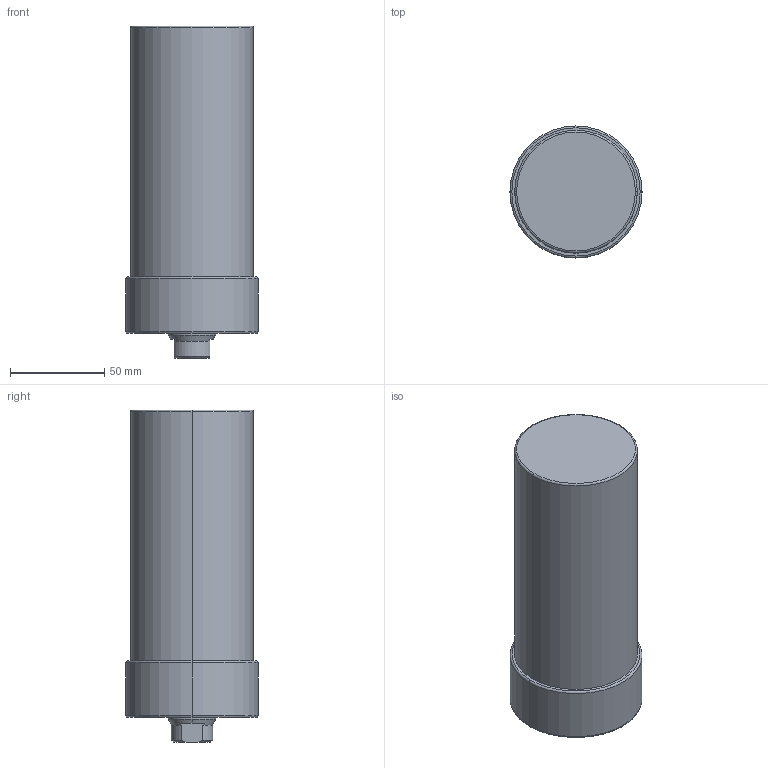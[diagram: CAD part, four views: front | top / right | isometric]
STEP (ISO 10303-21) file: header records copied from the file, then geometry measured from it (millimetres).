
FILE_DESCRIPTION (( 'STEP AP203' ), '1' );
FILE_NAME ('CLLU-065GA-100.STEP', '2020-01-07T00:08:45', ( '' ), ( '' ), 'SwSTEP 2.0', 'SolidWorks 2015', '' );
FILE_SCHEMA (( 'CONFIG_CONTROL_DESIGN' ));
Length unit declared in the file: millimetre
Products named in the file (1): CLLU-065GA-100
Bounding box: 70 x 70 x 176 mm (x, y, z)
Volume: 557222.8 mm3; surface area: 44183.7 mm2
Topology: 1 solids, 1 shells, 62 faces, 140 edges, 79 vertices
Faces by surface type: cone 24, cylinder 22, plane 10, torus 6
Entity records: 1751 total; most frequent: DIRECTION 320, CARTESIAN_POINT 300, ORIENTED_EDGE 260, AXIS2_PLACEMENT_3D 135, EDGE_CURVE 130, VERTEX_POINT 79, CIRCLE 72, EDGE_LOOP 71
